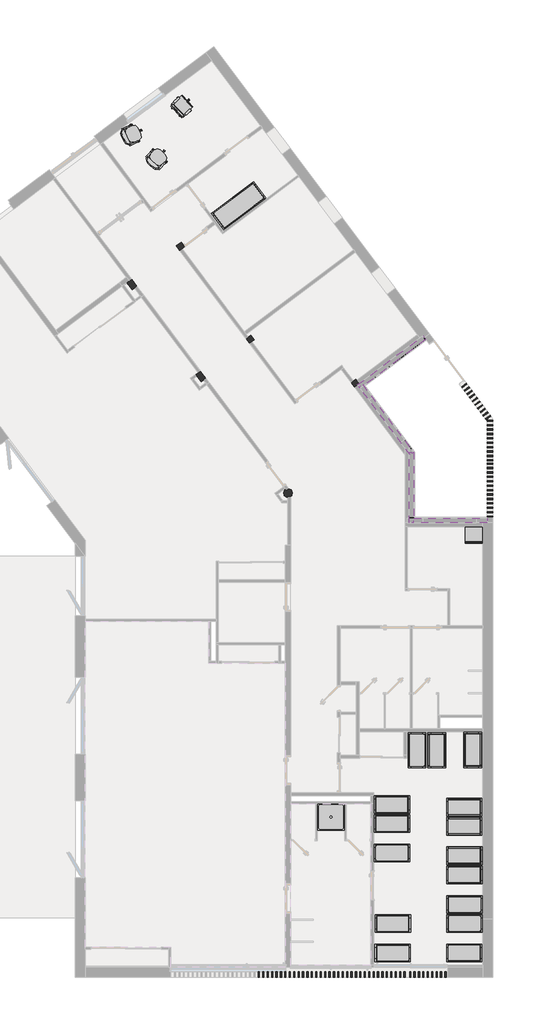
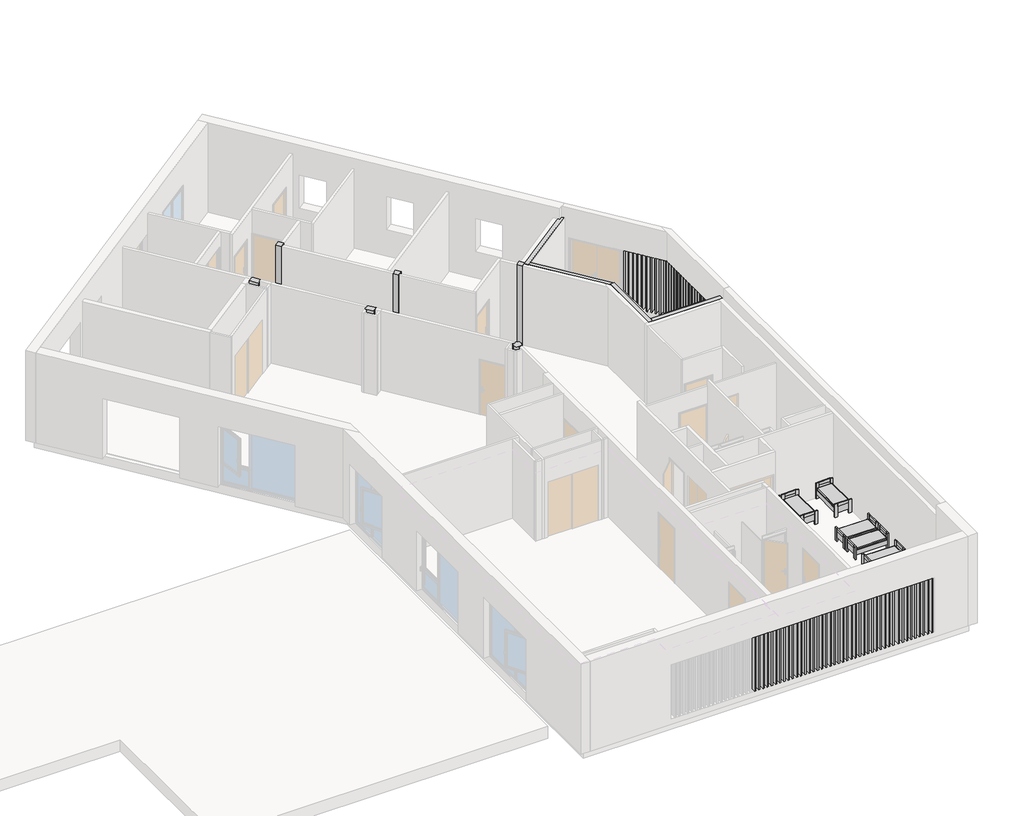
# One storey, part 4 of 4: 99 columns, 19 furniture elements, 8 beams, 1 flow terminal, 1 proxy.
"""IFC4 building model written with IfcOpenShell, lengths in millimetres."""

from ifc_helpers import new_model, si_unit, origin, place, context, project, spatial, transform, mapped, element, save
from components import chevron_145_x_40_cf7908cb, chevron_145_x_40_1126b362, chevron_145_x_40_7ee0f687, chevron_145_x_40_41390dd3, chevron_145_x_40_a3c6aac5, chevron_145_x_40_2b96ad9e, specialty_equipment_08ab1db2, column_200mm_x_200mm_b0a69769, column_200mm_x_200mm_c6912df6, column_200mm_x_300mm_67675290, column_300mm_55771762, column_40mm_x_145mm_5b8a7ea4, column_40mm_x_200mm_501ef31c, column_40mm_x_200mm_4dcdedf7, flow_terminal_900_x_900mm_b36db4aa, furniture_d3363bb0, furniture_a395565c, lit_120_x_60_0b7843ef, lit_70_x_1_80_ef4a9673

model = new_model("IFC4")

# Units and contexts
model_context = context("Model", 3, world=origin())
ifc_project = project(units=[si_unit("LENGTHUNIT", "METRE", prefix="MILLI")], contexts=[model_context])

# Site, building, storey
site = spatial("IfcSite", under=ifc_project)
building = spatial("IfcBuilding", under=site)
storey = spatial("IfcBuildingStorey", under=building, Name="1 Cdl 1er 3.95", Elevation=3950.0)

# Beams
placement = place(None, origin())
chevron_145_x_40_shape = chevron_145_x_40_cf7908cb(model_context)
element("IfcBeam", 1, ObjectType="Chevron : 145 x 40", at=placement, inside=storey, context=model_context, shape_type="MappedRepresentation", body=[
    mapped(chevron_145_x_40_shape, transform((-1308.2332325, 4767.5457341, 3970.0), x_axis=(-0.8005749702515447, -0.5992326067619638, 0.0), y_axis=(0.5992326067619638, -0.8005749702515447, 0.0), z_axis=(0.0, 0.0, 1.0))),
])
element("IfcBeam", 2, ObjectType="Chevron : 145 x 40", at=placement, inside=storey, context=model_context, shape_type="MappedRepresentation", body=[
    mapped(chevron_145_x_40_shape, transform((-1309.1038729, 4766.8929792, 6930.3579658), x_axis=(-0.8005749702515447, -0.5992326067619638, 0.0), y_axis=(0.5992326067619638, -0.8005749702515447, 0.0), z_axis=(0.0, 0.0, 1.0))),
])
chevron_145_x_40_2_shape = chevron_145_x_40_1126b362(model_context)
element("IfcBeam", 3, ObjectType="Chevron : 145 x 40", at=placement, inside=storey, context=model_context, shape_type="MappedRepresentation", body=[
    mapped(chevron_145_x_40_2_shape, transform((-630.4450497, 488.407764, 3970.0), x_axis=(0.0, -1.0, 0.0), y_axis=(1.0, 0.0, 0.0), z_axis=(0.0, 0.0, 1.0))),
])
chevron_145_x_40_3_shape = chevron_145_x_40_7ee0f687(model_context)
element("IfcBeam", 4, ObjectType="Chevron : 145 x 40", at=placement, inside=storey, context=model_context, shape_type="MappedRepresentation", body=[
    mapped(chevron_145_x_40_3_shape, transform((687.9678799, -619.7315788, 3970.0), x_axis=(1.0, 0.0, 0.0), y_axis=(0.0, 1.0, 0.0), z_axis=(0.0, 0.0, 1.0))),
])
element("IfcBeam", 5, ObjectType="Chevron : 145 x 40", at=placement, inside=storey, context=model_context, shape_type="MappedRepresentation", body=[
    mapped(chevron_145_x_40_3_shape, transform((691.4234173, -619.7315788, 6930.0), x_axis=(1.0, 0.0, 0.0), y_axis=(0.0, 1.0, 0.0), z_axis=(0.0, 0.0, 1.0))),
])
chevron_145_x_40_4_shape = chevron_145_x_40_41390dd3(model_context)
element("IfcBeam", 6, ObjectType="Chevron : 145 x 40", at=placement, inside=storey, context=model_context, shape_type="MappedRepresentation", body=[
    mapped(chevron_145_x_40_4_shape, transform((-1495.7815164, 2823.6831572, 3970.0), x_axis=(0.5993370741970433, -0.800496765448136, 0.0), y_axis=(0.800496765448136, 0.5993370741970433, 0.0), z_axis=(0.0, 0.0, 1.0))),
])
chevron_145_x_40_5_shape = chevron_145_x_40_a3c6aac5(model_context)
element("IfcBeam", 7, ObjectType="Chevron : 145 x 40", at=placement, inside=storey, context=model_context, shape_type="MappedRepresentation", body=[
    mapped(chevron_145_x_40_5_shape, transform((-1486.3578041, 2811.1138689, 6930.0), x_axis=(0.5993370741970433, -0.800496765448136, 0.0), y_axis=(0.800496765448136, 0.5993370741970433, 0.0), z_axis=(0.0, 0.0, 1.0))),
])
chevron_145_x_40_6_shape = chevron_145_x_40_2b96ad9e(model_context)
element("IfcBeam", 8, ObjectType="Chevron : 145 x 40", at=placement, inside=storey, context=model_context, shape_type="MappedRepresentation", body=[
    mapped(chevron_145_x_40_6_shape, transform((-630.4450497, 487.2684212, 6930.0), x_axis=(0.0, -1.0, 0.0), y_axis=(1.0, 0.0, 0.0), z_axis=(0.0, 0.0, 1.0))),
])

# Proxy
specialty_equipment_shape = specialty_equipment_08ab1db2(model_context)
element("IfcBuildingElementProxy", 9, Name="Kitchen_Appliances_Zanussi_Zanussi-FI-60-Dishwasher-Sliding-Door : Name - (ZDLN1511 911539251 Denmark)", ObjectType="Kitchen_Appliances_Zanussi_Zanussi-FI-60-Dishwasher-Sliding-Door : Name - (ZDLN1511 911539251 Denmark)", at=placement, inside=storey, context=model_context, shape_type="MappedRepresentation", body=[
    mapped(specialty_equipment_shape, transform((1499.4160615, -1107.2306525, 3950.0), x_axis=(1.0, 0.0, 0.0), y_axis=(0.0, 1.0, 0.0), z_axis=(0.0, 0.0, 1.0))),
])

# Columns
column_200mm_x_200mm_shape = column_200mm_x_200mm_b0a69769(model_context)
element("IfcColumn", 10, ObjectType="Poteau béton - Carré : 200mm x 200mm", at=placement, inside=storey, context=model_context, shape_type="MappedRepresentation", body=[
    mapped(column_200mm_x_200mm_shape, transform((-6114.8805693, 5539.4962637, 0.0), x_axis=(0.800099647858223, 0.5998671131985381, 0.0), y_axis=(-0.5998671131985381, 0.800099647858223, 0.0), z_axis=(0.0, 0.0, 1.0))),
])
element("IfcColumn", 11, ObjectType="Poteau béton - Carré : 200mm x 200mm", at=placement, inside=storey, context=model_context, shape_type="MappedRepresentation", body=[
    mapped(column_200mm_x_200mm_shape, transform((-8483.9767077, 8699.3844196, 0.0), x_axis=(0.800099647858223, 0.5998671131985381, 0.0), y_axis=(-0.5998671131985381, 0.800099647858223, 0.0), z_axis=(0.0, 0.0, 1.0))),
])
column_200mm_x_200mm_2_shape = column_200mm_x_200mm_c6912df6(model_context)
element("IfcColumn", 12, ObjectType="Poteau béton - Carré : 200mm x 200mm", at=placement, inside=storey, context=model_context, shape_type="MappedRepresentation", body=[
    mapped(column_200mm_x_200mm_2_shape, transform((-2547.1985735, 4050.2097719, 0.0), x_axis=(0.800099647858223, 0.5998671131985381, 0.0), y_axis=(-0.5998671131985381, 0.800099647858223, 0.0), z_axis=(0.0, 0.0, 1.0))),
])
column_200mm_x_300mm_shape = column_200mm_x_300mm_67675290(model_context)
element("IfcColumn", 13, ObjectType="Poteau béton - Rectangulaire : 200mm x 300mm", at=placement, inside=storey, context=model_context, shape_type="MappedRepresentation", body=[
    mapped(column_200mm_x_300mm_shape, transform((-7794.8681837, 4279.8637718, 0.0), x_axis=(0.8003937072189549, 0.5994746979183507, 0.0), y_axis=(-0.5994746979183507, 0.8003937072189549, 0.0), z_axis=(0.0, 0.0, 1.0))),
])
element("IfcColumn", 14, ObjectType="Poteau béton - Rectangulaire : 200mm x 300mm", at=placement, inside=storey, context=model_context, shape_type="MappedRepresentation", body=[
    mapped(column_200mm_x_300mm_shape, transform((-10134.3194046, 7400.3587309, 0.0), x_axis=(0.800099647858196, 0.599867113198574, 0.0), y_axis=(-0.599867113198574, 0.800099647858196, 0.0), z_axis=(0.0, 0.0, 1.0))),
])
column_300mm_shape = column_300mm_55771762(model_context)
element("IfcColumn", 15, ObjectType="Poteau béton - Arrondi : 300mm", at=placement, inside=storey, context=model_context, shape_type="MappedRepresentation", body=[
    mapped(column_300mm_shape, transform((-4827.9622089, 318.9369131, 0.0), x_axis=(1.0, 0.0, 0.0), y_axis=(0.0, 1.0, 0.0), z_axis=(0.0, 0.0, 1.0))),
])
column_40mm_x_145mm_shape = column_40mm_x_145mm_5b8a7ea4(model_context)
element("IfcColumn", 16, ObjectType="Poteau - Lamellé-collé - Pin du sud : 40mm x 145mm", at=placement, inside=storey, context=model_context, shape_type="MappedRepresentation", body=[
    mapped(column_40mm_x_145mm_shape, transform((1540.2133907, -619.8564388, 0.0), x_axis=(-1.0, 0.0, 0.0), y_axis=(0.0, -1.0, 0.0), z_axis=(0.0, 0.0, 1.0))),
])
element("IfcColumn", 17, ObjectType="Poteau - Lamellé-collé - Pin du sud : 40mm x 145mm", at=placement, inside=storey, context=model_context, shape_type="MappedRepresentation", body=[
    mapped(column_40mm_x_145mm_shape, transform((-267.0765827, -619.7304389, 0.0), x_axis=(-1.0, 0.0, 0.0), y_axis=(0.0, -1.0, 0.0), z_axis=(0.0, 0.0, 1.0))),
])
element("IfcColumn", 18, ObjectType="Poteau - Lamellé-collé - Pin du sud : 40mm x 145mm", at=placement, inside=storey, context=model_context, shape_type="MappedRepresentation", body=[
    mapped(column_40mm_x_145mm_shape, transform((937.6776281, -619.7256248, 0.0), x_axis=(-1.0, 0.0, 0.0), y_axis=(0.0, -1.0, 0.0), z_axis=(0.0, 0.0, 1.0))),
])
element("IfcColumn", 19, ObjectType="Poteau - Lamellé-collé - Pin du sud : 40mm x 145mm", at=placement, inside=storey, context=model_context, shape_type="MappedRepresentation", body=[
    mapped(column_40mm_x_145mm_shape, transform((335.278145, -619.7315788, 0.0), x_axis=(-1.0, 0.0, 0.0), y_axis=(0.0, -1.0, 0.0), z_axis=(0.0, 0.0, 1.0))),
])
element("IfcColumn", 20, ObjectType="Poteau - Lamellé-collé - Pin du sud : 40mm x 145mm", at=placement, inside=storey, context=model_context, shape_type="MappedRepresentation", body=[
    mapped(column_40mm_x_145mm_shape, transform((-630.4450497, 1280.0595346, 0.0), x_axis=(0.0, -1.0, 0.0), y_axis=(1.0, 0.0, 0.0), z_axis=(0.0, 0.0, 1.0))),
])
element("IfcColumn", 21, ObjectType="Poteau - Lamellé-collé - Pin du sud : 40mm x 145mm", at=placement, inside=storey, context=model_context, shape_type="MappedRepresentation", body=[
    mapped(column_40mm_x_145mm_shape, transform((-630.5710496, -527.2304389, 0.0), x_axis=(0.0, -1.0, 0.0), y_axis=(1.0, 0.0, 0.0), z_axis=(0.0, 0.0, 1.0))),
])
element("IfcColumn", 22, ObjectType="Poteau - Lamellé-collé - Pin du sud : 40mm x 145mm", at=placement, inside=storey, context=model_context, shape_type="MappedRepresentation", body=[
    mapped(column_40mm_x_145mm_shape, transform((-630.5758637, 677.523772, 0.0), x_axis=(0.0, -1.0, 0.0), y_axis=(1.0, 0.0, 0.0), z_axis=(0.0, 0.0, 1.0))),
])
element("IfcColumn", 23, ObjectType="Poteau - Lamellé-collé - Pin du sud : 40mm x 145mm", at=placement, inside=storey, context=model_context, shape_type="MappedRepresentation", body=[
    mapped(column_40mm_x_145mm_shape, transform((-630.5699097, 75.1242889, 0.0), x_axis=(0.0, -1.0, 0.0), y_axis=(1.0, 0.0, 0.0), z_axis=(0.0, 0.0, 1.0))),
])
element("IfcColumn", 24, ObjectType="Poteau - Lamellé-collé - Pin du sud : 40mm x 145mm", at=placement, inside=storey, context=model_context, shape_type="MappedRepresentation", body=[
    mapped(column_40mm_x_145mm_shape, transform((-2027.5943824, 3539.111296, 0.0), x_axis=(0.5992331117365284, -0.8005745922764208, 0.0), y_axis=(0.8005745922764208, 0.5992331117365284, 0.0), z_axis=(0.0, 0.0, 1.0))),
])
element("IfcColumn", 25, ObjectType="Poteau - Lamellé-collé - Pin du sud : 40mm x 145mm", at=placement, inside=storey, context=model_context, shape_type="MappedRepresentation", body=[
    mapped(column_40mm_x_145mm_shape, transform((-944.7072601, 2092.1653591, 0.0), x_axis=(0.5992331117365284, -0.8005745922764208, 0.0), y_axis=(0.8005745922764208, 0.5992331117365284, 0.0), z_axis=(0.0, 0.0, 1.0))),
])
element("IfcColumn", 26, ObjectType="Poteau - Lamellé-collé - Pin du sud : 40mm x 145mm", at=placement, inside=storey, context=model_context, shape_type="MappedRepresentation", body=[
    mapped(column_40mm_x_145mm_shape, transform((-1666.6397288, 3056.6580855, 0.0), x_axis=(0.5992331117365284, -0.8005745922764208, 0.0), y_axis=(0.8005745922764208, 0.5992331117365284, 0.0), z_axis=(0.0, 0.0, 1.0))),
])
element("IfcColumn", 27, ObjectType="Poteau - Lamellé-collé - Pin du sud : 40mm x 145mm", at=placement, inside=storey, context=model_context, shape_type="MappedRepresentation", body=[
    mapped(column_40mm_x_145mm_shape, transform((-1305.6572454, 2574.3959328, 0.0), x_axis=(0.5992331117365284, -0.8005745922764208, 0.0), y_axis=(0.8005745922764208, 0.5992331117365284, 0.0), z_axis=(0.0, 0.0, 1.0))),
])
element("IfcColumn", 28, ObjectType="Poteau - Lamellé-collé - Pin du sud : 40mm x 145mm", at=placement, inside=storey, context=model_context, shape_type="MappedRepresentation", body=[
    mapped(column_40mm_x_145mm_shape, transform((-483.1819505, 5384.9413129, 0.0), x_axis=(-0.8005745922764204, -0.5992331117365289, 0.0), y_axis=(0.5992331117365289, -0.8005745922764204, 0.0), z_axis=(0.0, 0.0, 1.0))),
])
element("IfcColumn", 29, ObjectType="Poteau - Lamellé-collé - Pin du sud : 40mm x 145mm", at=placement, inside=storey, context=model_context, shape_type="MappedRepresentation", body=[
    mapped(column_40mm_x_145mm_shape, transform((-1930.1278874, 4302.0541907, 0.0), x_axis=(-0.8005745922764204, -0.5992331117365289, 0.0), y_axis=(0.5992331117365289, -0.8005745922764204, 0.0), z_axis=(0.0, 0.0, 1.0))),
])
element("IfcColumn", 30, ObjectType="Poteau - Lamellé-collé - Pin du sud : 40mm x 145mm", at=placement, inside=storey, context=model_context, shape_type="MappedRepresentation", body=[
    mapped(column_40mm_x_145mm_shape, transform((-965.635161, 5023.9866593, 0.0), x_axis=(-0.8005745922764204, -0.5992331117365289, 0.0), y_axis=(0.5992331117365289, -0.8005745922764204, 0.0), z_axis=(0.0, 0.0, 1.0))),
])
element("IfcColumn", 31, ObjectType="Poteau - Lamellé-collé - Pin du sud : 40mm x 145mm", at=placement, inside=storey, context=model_context, shape_type="MappedRepresentation", body=[
    mapped(column_40mm_x_145mm_shape, transform((-1447.8973137, 4663.004176, 0.0), x_axis=(-0.8005745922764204, -0.5992331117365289, 0.0), y_axis=(0.5992331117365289, -0.8005745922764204, 0.0), z_axis=(0.0, 0.0, 1.0))),
])
element("IfcColumn", 32, ObjectType="Poteau - Lamellé-collé - Pin du sud : 40mm x 145mm", at=placement, inside=storey, context=model_context, shape_type="MappedRepresentation", body=[
    mapped(column_40mm_x_145mm_shape, transform((-207.0246369, 5591.7735756, 0.0), x_axis=(-0.8005745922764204, -0.5992331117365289, 0.0), y_axis=(0.5992331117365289, -0.8005745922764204, 0.0), z_axis=(0.0, 0.0, 1.0))),
])
column_40mm_x_200mm_shape = column_40mm_x_200mm_501ef31c(model_context)
element("IfcColumn", 33, ObjectType="Poteau - Lamellé-collé - Pin du sud : 40mm x 200mm", at=placement, inside=storey, context=model_context, shape_type="MappedRepresentation", body=[
    mapped(column_40mm_x_200mm_shape, transform((2036.9234173, -484.8485082, 0.0), x_axis=(0.0, 1.0, 0.0), y_axis=(-1.0, 0.0, 0.0), z_axis=(0.0, 0.0, 1.0))),
])
element("IfcColumn", 34, ObjectType="Poteau - Lamellé-collé - Pin du sud : 40mm x 200mm", at=placement, inside=storey, context=model_context, shape_type="MappedRepresentation", body=[
    mapped(column_40mm_x_200mm_shape, transform((2036.9234173, -334.8485082, 0.0), x_axis=(0.0, 1.0, 0.0), y_axis=(-1.0, 0.0, 0.0), z_axis=(0.0, 0.0, 1.0))),
])
element("IfcColumn", 35, ObjectType="Poteau - Lamellé-collé - Pin du sud : 40mm x 200mm", at=placement, inside=storey, context=model_context, shape_type="MappedRepresentation", body=[
    mapped(column_40mm_x_200mm_shape, transform((2036.9234173, -184.8485082, 0.0), x_axis=(0.0, 1.0, 0.0), y_axis=(-1.0, 0.0, 0.0), z_axis=(0.0, 0.0, 1.0))),
])
element("IfcColumn", 36, ObjectType="Poteau - Lamellé-collé - Pin du sud : 40mm x 200mm", at=placement, inside=storey, context=model_context, shape_type="MappedRepresentation", body=[
    mapped(column_40mm_x_200mm_shape, transform((2036.9234173, -34.8485082, 0.0), x_axis=(0.0, 1.0, 0.0), y_axis=(-1.0, 0.0, 0.0), z_axis=(0.0, 0.0, 1.0))),
])
element("IfcColumn", 37, ObjectType="Poteau - Lamellé-collé - Pin du sud : 40mm x 200mm", at=placement, inside=storey, context=model_context, shape_type="MappedRepresentation", body=[
    mapped(column_40mm_x_200mm_shape, transform((2036.9234173, 115.1514918, 0.0), x_axis=(0.0, 1.0, 0.0), y_axis=(-1.0, 0.0, 0.0), z_axis=(0.0, 0.0, 1.0))),
])
element("IfcColumn", 38, ObjectType="Poteau - Lamellé-collé - Pin du sud : 40mm x 200mm", at=placement, inside=storey, context=model_context, shape_type="MappedRepresentation", body=[
    mapped(column_40mm_x_200mm_shape, transform((2036.9234173, 265.1514918, 0.0), x_axis=(0.0, 1.0, 0.0), y_axis=(-1.0, 0.0, 0.0), z_axis=(0.0, 0.0, 1.0))),
])
element("IfcColumn", 39, ObjectType="Poteau - Lamellé-collé - Pin du sud : 40mm x 200mm", at=placement, inside=storey, context=model_context, shape_type="MappedRepresentation", body=[
    mapped(column_40mm_x_200mm_shape, transform((2036.9234173, 415.1514918, 0.0), x_axis=(0.0, 1.0, 0.0), y_axis=(-1.0, 0.0, 0.0), z_axis=(0.0, 0.0, 1.0))),
])
element("IfcColumn", 40, ObjectType="Poteau - Lamellé-collé - Pin du sud : 40mm x 200mm", at=placement, inside=storey, context=model_context, shape_type="MappedRepresentation", body=[
    mapped(column_40mm_x_200mm_shape, transform((2036.9234173, 565.1514918, 0.0), x_axis=(0.0, 1.0, 0.0), y_axis=(-1.0, 0.0, 0.0), z_axis=(0.0, 0.0, 1.0))),
])
element("IfcColumn", 41, ObjectType="Poteau - Lamellé-collé - Pin du sud : 40mm x 200mm", at=placement, inside=storey, context=model_context, shape_type="MappedRepresentation", body=[
    mapped(column_40mm_x_200mm_shape, transform((2036.9234173, 715.1514918, 0.0), x_axis=(0.0, 1.0, 0.0), y_axis=(-1.0, 0.0, 0.0), z_axis=(0.0, 0.0, 1.0))),
])
element("IfcColumn", 42, ObjectType="Poteau - Lamellé-collé - Pin du sud : 40mm x 200mm", at=placement, inside=storey, context=model_context, shape_type="MappedRepresentation", body=[
    mapped(column_40mm_x_200mm_shape, transform((2036.9234173, 865.1514918, 0.0), x_axis=(0.0, 1.0, 0.0), y_axis=(-1.0, 0.0, 0.0), z_axis=(0.0, 0.0, 1.0))),
])
element("IfcColumn", 43, ObjectType="Poteau - Lamellé-collé - Pin du sud : 40mm x 200mm", at=placement, inside=storey, context=model_context, shape_type="MappedRepresentation", body=[
    mapped(column_40mm_x_200mm_shape, transform((2036.9234173, 1015.1514918, 0.0), x_axis=(0.0, 1.0, 0.0), y_axis=(-1.0, 0.0, 0.0), z_axis=(0.0, 0.0, 1.0))),
])
element("IfcColumn", 44, ObjectType="Poteau - Lamellé-collé - Pin du sud : 40mm x 200mm", at=placement, inside=storey, context=model_context, shape_type="MappedRepresentation", body=[
    mapped(column_40mm_x_200mm_shape, transform((2036.9234173, 1165.1514918, 0.0), x_axis=(0.0, 1.0, 0.0), y_axis=(-1.0, 0.0, 0.0), z_axis=(0.0, 0.0, 1.0))),
])
element("IfcColumn", 45, ObjectType="Poteau - Lamellé-collé - Pin du sud : 40mm x 200mm", at=placement, inside=storey, context=model_context, shape_type="MappedRepresentation", body=[
    mapped(column_40mm_x_200mm_shape, transform((2036.9234173, 1315.1514918, 0.0), x_axis=(0.0, 1.0, 0.0), y_axis=(-1.0, 0.0, 0.0), z_axis=(0.0, 0.0, 1.0))),
])
element("IfcColumn", 46, ObjectType="Poteau - Lamellé-collé - Pin du sud : 40mm x 200mm", at=placement, inside=storey, context=model_context, shape_type="MappedRepresentation", body=[
    mapped(column_40mm_x_200mm_shape, transform((1790.1113018, 3128.2658886, 0.0), x_axis=(0.5999025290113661, -0.8000730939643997, 0.0), y_axis=(0.8000730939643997, 0.5999025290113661, 0.0), z_axis=(0.0, 0.0, 1.0))),
])
element("IfcColumn", 47, ObjectType="Poteau - Lamellé-collé - Pin du sud : 40mm x 200mm", at=placement, inside=storey, context=model_context, shape_type="MappedRepresentation", body=[
    mapped(column_40mm_x_200mm_shape, transform((1880.0966812, 3008.2549245, 0.0), x_axis=(0.5999025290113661, -0.8000730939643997, 0.0), y_axis=(0.8000730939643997, 0.5999025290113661, 0.0), z_axis=(0.0, 0.0, 1.0))),
])
element("IfcColumn", 48, ObjectType="Poteau - Lamellé-collé - Pin du sud : 40mm x 200mm", at=placement, inside=storey, context=model_context, shape_type="MappedRepresentation", body=[
    mapped(column_40mm_x_200mm_shape, transform((1970.0820605, 2888.2439604, 0.0), x_axis=(0.5999025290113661, -0.8000730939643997, 0.0), y_axis=(0.8000730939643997, 0.5999025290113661, 0.0), z_axis=(0.0, 0.0, 1.0))),
])
element("IfcColumn", 49, ObjectType="Poteau - Lamellé-collé - Pin du sud : 40mm x 200mm", at=placement, inside=storey, context=model_context, shape_type="MappedRepresentation", body=[
    mapped(column_40mm_x_200mm_shape, transform((2036.9234173, 2775.1514918, 0.0), x_axis=(0.0, -1.0, 0.0), y_axis=(1.0, 0.0, 0.0), z_axis=(0.0, 0.0, 1.0))),
])
element("IfcColumn", 50, ObjectType="Poteau - Lamellé-collé - Pin du sud : 40mm x 200mm", at=placement, inside=storey, context=model_context, shape_type="MappedRepresentation", body=[
    mapped(column_40mm_x_200mm_shape, transform((2036.9234173, 2625.1514918, 0.0), x_axis=(0.0, -1.0, 0.0), y_axis=(1.0, 0.0, 0.0), z_axis=(0.0, 0.0, 1.0))),
])
element("IfcColumn", 51, ObjectType="Poteau - Lamellé-collé - Pin du sud : 40mm x 200mm", at=placement, inside=storey, context=model_context, shape_type="MappedRepresentation", body=[
    mapped(column_40mm_x_200mm_shape, transform((2036.9234173, 2475.1514918, 0.0), x_axis=(0.0, -1.0, 0.0), y_axis=(1.0, 0.0, 0.0), z_axis=(0.0, 0.0, 1.0))),
])
element("IfcColumn", 52, ObjectType="Poteau - Lamellé-collé - Pin du sud : 40mm x 200mm", at=placement, inside=storey, context=model_context, shape_type="MappedRepresentation", body=[
    mapped(column_40mm_x_200mm_shape, transform((2036.9234173, 2325.1514918, 0.0), x_axis=(0.0, -1.0, 0.0), y_axis=(1.0, 0.0, 0.0), z_axis=(0.0, 0.0, 1.0))),
])
element("IfcColumn", 53, ObjectType="Poteau - Lamellé-collé - Pin du sud : 40mm x 200mm", at=placement, inside=storey, context=model_context, shape_type="MappedRepresentation", body=[
    mapped(column_40mm_x_200mm_shape, transform((2036.9234173, 2175.1514918, 0.0), x_axis=(0.0, -1.0, 0.0), y_axis=(1.0, 0.0, 0.0), z_axis=(0.0, 0.0, 1.0))),
])
element("IfcColumn", 54, ObjectType="Poteau - Lamellé-collé - Pin du sud : 40mm x 200mm", at=placement, inside=storey, context=model_context, shape_type="MappedRepresentation", body=[
    mapped(column_40mm_x_200mm_shape, transform((2036.9234173, 2025.1514918, 0.0), x_axis=(0.0, -1.0, 0.0), y_axis=(1.0, 0.0, 0.0), z_axis=(0.0, 0.0, 1.0))),
])
element("IfcColumn", 55, ObjectType="Poteau - Lamellé-collé - Pin du sud : 40mm x 200mm", at=placement, inside=storey, context=model_context, shape_type="MappedRepresentation", body=[
    mapped(column_40mm_x_200mm_shape, transform((2036.9234173, 1875.1514918, 0.0), x_axis=(0.0, -1.0, 0.0), y_axis=(1.0, 0.0, 0.0), z_axis=(0.0, 0.0, 1.0))),
])
element("IfcColumn", 56, ObjectType="Poteau - Lamellé-collé - Pin du sud : 40mm x 200mm", at=placement, inside=storey, context=model_context, shape_type="MappedRepresentation", body=[
    mapped(column_40mm_x_200mm_shape, transform((2036.9234173, 1725.1514918, 0.0), x_axis=(0.0, -1.0, 0.0), y_axis=(1.0, 0.0, 0.0), z_axis=(0.0, 0.0, 1.0))),
])
element("IfcColumn", 57, ObjectType="Poteau - Lamellé-collé - Pin du sud : 40mm x 200mm", at=placement, inside=storey, context=model_context, shape_type="MappedRepresentation", body=[
    mapped(column_40mm_x_200mm_shape, transform((2036.9234173, 1575.1514918, 0.0), x_axis=(0.0, -1.0, 0.0), y_axis=(1.0, 0.0, 0.0), z_axis=(0.0, 0.0, 1.0))),
])
element("IfcColumn", 58, ObjectType="Poteau - Lamellé-collé - Pin du sud : 40mm x 200mm", at=placement, inside=storey, context=model_context, shape_type="MappedRepresentation", body=[
    mapped(column_40mm_x_200mm_shape, transform((2036.9234173, 1425.1514918, 0.0), x_axis=(0.0, -1.0, 0.0), y_axis=(1.0, 0.0, 0.0), z_axis=(0.0, 0.0, 1.0))),
])
element("IfcColumn", 59, ObjectType="Poteau - Lamellé-collé - Pin du sud : 40mm x 200mm", at=placement, inside=storey, context=model_context, shape_type="MappedRepresentation", body=[
    mapped(column_40mm_x_200mm_shape, transform((1520.1590027, 3488.3025688, 0.0), x_axis=(0.5999025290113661, -0.8000730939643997, 0.0), y_axis=(0.8000730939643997, 0.5999025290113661, 0.0), z_axis=(0.0, 0.0, 1.0))),
])
element("IfcColumn", 60, ObjectType="Poteau - Lamellé-collé - Pin du sud : 40mm x 200mm", at=placement, inside=storey, context=model_context, shape_type="MappedRepresentation", body=[
    mapped(column_40mm_x_200mm_shape, transform((1610.144382, 3368.2916047, 0.0), x_axis=(0.5999025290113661, -0.8000730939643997, 0.0), y_axis=(0.8000730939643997, 0.5999025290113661, 0.0), z_axis=(0.0, 0.0, 1.0))),
])
element("IfcColumn", 61, ObjectType="Poteau - Lamellé-collé - Pin du sud : 40mm x 200mm", at=placement, inside=storey, context=model_context, shape_type="MappedRepresentation", body=[
    mapped(column_40mm_x_200mm_shape, transform((1700.1297614, 3248.2806406, 0.0), x_axis=(0.5999025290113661, -0.8000730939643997, 0.0), y_axis=(0.8000730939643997, 0.5999025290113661, 0.0), z_axis=(0.0, 0.0, 1.0))),
])
element("IfcColumn", 62, ObjectType="Poteau - Lamellé-collé - Pin du sud : 40mm x 200mm", at=placement, inside=storey, context=model_context, shape_type="MappedRepresentation", body=[
    mapped(column_40mm_x_200mm_shape, transform((1250.2194107, 3848.3478235, 0.0), x_axis=(0.5999025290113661, -0.8000730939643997, 0.0), y_axis=(0.8000730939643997, 0.5999025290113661, 0.0), z_axis=(0.0, 0.0, 1.0))),
])
element("IfcColumn", 63, ObjectType="Poteau - Lamellé-collé - Pin du sud : 40mm x 200mm", at=placement, inside=storey, context=model_context, shape_type="MappedRepresentation", body=[
    mapped(column_40mm_x_200mm_shape, transform((1340.2047901, 3728.3368594, 0.0), x_axis=(0.5999025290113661, -0.8000730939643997, 0.0), y_axis=(0.8000730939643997, 0.5999025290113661, 0.0), z_axis=(0.0, 0.0, 1.0))),
])
element("IfcColumn", 64, ObjectType="Poteau - Lamellé-collé - Pin du sud : 40mm x 200mm", at=placement, inside=storey, context=model_context, shape_type="MappedRepresentation", body=[
    mapped(column_40mm_x_200mm_shape, transform((1430.1901694, 3608.3258953, 0.0), x_axis=(0.5999025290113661, -0.8000730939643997, 0.0), y_axis=(0.8000730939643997, 0.5999025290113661, 0.0), z_axis=(0.0, 0.0, 1.0))),
])
element("IfcColumn", 65, ObjectType="Poteau - Lamellé-collé - Pin du sud : 40mm x 200mm", at=placement, inside=storey, context=model_context, shape_type="MappedRepresentation", body=[
    mapped(column_40mm_x_200mm_shape, transform((1160.2495737, 3968.369674, 0.0), x_axis=(0.5999025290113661, -0.8000730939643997, 0.0), y_axis=(0.8000730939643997, 0.5999025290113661, 0.0), z_axis=(0.0, 0.0, 1.0))),
])
column_40mm_x_200mm_2_shape = column_40mm_x_200mm_4dcdedf7(model_context)
element("IfcColumn", 66, ObjectType="Poteau - Lamellé-collé - Pin du sud : 40mm x 200mm", at=placement, inside=storey, context=model_context, shape_type="MappedRepresentation", body=[
    mapped(column_40mm_x_200mm_2_shape, transform((-5819.5111839, -16048.5662223, 0.0), x_axis=(1.0, 0.0, 0.0), y_axis=(0.0, 1.0, 0.0), z_axis=(0.0, 0.0, 1.0))),
])
element("IfcColumn", 67, ObjectType="Poteau - Lamellé-collé - Pin du sud : 40mm x 200mm", at=placement, inside=storey, context=model_context, shape_type="MappedRepresentation", body=[
    mapped(column_40mm_x_200mm_2_shape, transform((-5669.5111839, -16048.5662223, 0.0), x_axis=(1.0, 0.0, 0.0), y_axis=(0.0, 1.0, 0.0), z_axis=(0.0, 0.0, 1.0))),
])
element("IfcColumn", 68, ObjectType="Poteau - Lamellé-collé - Pin du sud : 40mm x 200mm", at=placement, inside=storey, context=model_context, shape_type="MappedRepresentation", body=[
    mapped(column_40mm_x_200mm_2_shape, transform((-5519.5111839, -16048.5662223, 0.0), x_axis=(1.0, 0.0, 0.0), y_axis=(0.0, 1.0, 0.0), z_axis=(0.0, 0.0, 1.0))),
])
element("IfcColumn", 69, ObjectType="Poteau - Lamellé-collé - Pin du sud : 40mm x 200mm", at=placement, inside=storey, context=model_context, shape_type="MappedRepresentation", body=[
    mapped(column_40mm_x_200mm_2_shape, transform((-5369.5111839, -16048.5662223, 0.0), x_axis=(1.0, 0.0, 0.0), y_axis=(0.0, 1.0, 0.0), z_axis=(0.0, 0.0, 1.0))),
])
element("IfcColumn", 70, ObjectType="Poteau - Lamellé-collé - Pin du sud : 40mm x 200mm", at=placement, inside=storey, context=model_context, shape_type="MappedRepresentation", body=[
    mapped(column_40mm_x_200mm_2_shape, transform((-5219.5111839, -16048.5662223, 0.0), x_axis=(1.0, 0.0, 0.0), y_axis=(0.0, 1.0, 0.0), z_axis=(0.0, 0.0, 1.0))),
])
element("IfcColumn", 71, ObjectType="Poteau - Lamellé-collé - Pin du sud : 40mm x 200mm", at=placement, inside=storey, context=model_context, shape_type="MappedRepresentation", body=[
    mapped(column_40mm_x_200mm_2_shape, transform((-5069.5111839, -16048.5662223, 0.0), x_axis=(1.0, 0.0, 0.0), y_axis=(0.0, 1.0, 0.0), z_axis=(0.0, 0.0, 1.0))),
])
element("IfcColumn", 72, ObjectType="Poteau - Lamellé-collé - Pin du sud : 40mm x 200mm", at=placement, inside=storey, context=model_context, shape_type="MappedRepresentation", body=[
    mapped(column_40mm_x_200mm_2_shape, transform((-4919.5111839, -16048.5662223, 0.0), x_axis=(1.0, 0.0, 0.0), y_axis=(0.0, 1.0, 0.0), z_axis=(0.0, 0.0, 1.0))),
])
element("IfcColumn", 73, ObjectType="Poteau - Lamellé-collé - Pin du sud : 40mm x 200mm", at=placement, inside=storey, context=model_context, shape_type="MappedRepresentation", body=[
    mapped(column_40mm_x_200mm_2_shape, transform((-4769.5111839, -16048.5662223, 0.0), x_axis=(1.0, 0.0, 0.0), y_axis=(0.0, 1.0, 0.0), z_axis=(0.0, 0.0, 1.0))),
])
element("IfcColumn", 74, ObjectType="Poteau - Lamellé-collé - Pin du sud : 40mm x 200mm", at=placement, inside=storey, context=model_context, shape_type="MappedRepresentation", body=[
    mapped(column_40mm_x_200mm_2_shape, transform((-4619.5111839, -16048.5662223, 0.0), x_axis=(1.0, 0.0, 0.0), y_axis=(0.0, 1.0, 0.0), z_axis=(0.0, 0.0, 1.0))),
])
element("IfcColumn", 75, ObjectType="Poteau - Lamellé-collé - Pin du sud : 40mm x 200mm", at=placement, inside=storey, context=model_context, shape_type="MappedRepresentation", body=[
    mapped(column_40mm_x_200mm_2_shape, transform((-4469.5111839, -16048.5662223, 0.0), x_axis=(1.0, 0.0, 0.0), y_axis=(0.0, 1.0, 0.0), z_axis=(0.0, 0.0, 1.0))),
])
element("IfcColumn", 76, ObjectType="Poteau - Lamellé-collé - Pin du sud : 40mm x 200mm", at=placement, inside=storey, context=model_context, shape_type="MappedRepresentation", body=[
    mapped(column_40mm_x_200mm_2_shape, transform((-4319.5111839, -16048.5662223, 0.0), x_axis=(1.0, 0.0, 0.0), y_axis=(0.0, 1.0, 0.0), z_axis=(0.0, 0.0, 1.0))),
])
element("IfcColumn", 77, ObjectType="Poteau - Lamellé-collé - Pin du sud : 40mm x 200mm", at=placement, inside=storey, context=model_context, shape_type="MappedRepresentation", body=[
    mapped(column_40mm_x_200mm_2_shape, transform((-4169.5111839, -16048.5662223, 0.0), x_axis=(1.0, 0.0, 0.0), y_axis=(0.0, 1.0, 0.0), z_axis=(0.0, 0.0, 1.0))),
])
element("IfcColumn", 78, ObjectType="Poteau - Lamellé-collé - Pin du sud : 40mm x 200mm", at=placement, inside=storey, context=model_context, shape_type="MappedRepresentation", body=[
    mapped(column_40mm_x_200mm_2_shape, transform((-4019.5111839, -16048.5662223, 0.0), x_axis=(1.0, 0.0, 0.0), y_axis=(0.0, 1.0, 0.0), z_axis=(0.0, 0.0, 1.0))),
])
element("IfcColumn", 79, ObjectType="Poteau - Lamellé-collé - Pin du sud : 40mm x 200mm", at=placement, inside=storey, context=model_context, shape_type="MappedRepresentation", body=[
    mapped(column_40mm_x_200mm_2_shape, transform((-3869.5111839, -16048.5662223, 0.0), x_axis=(1.0, 0.0, 0.0), y_axis=(0.0, 1.0, 0.0), z_axis=(0.0, 0.0, 1.0))),
])
element("IfcColumn", 80, ObjectType="Poteau - Lamellé-collé - Pin du sud : 40mm x 200mm", at=placement, inside=storey, context=model_context, shape_type="MappedRepresentation", body=[
    mapped(column_40mm_x_200mm_2_shape, transform((-3719.5111839, -16048.5662223, 0.0), x_axis=(1.0, 0.0, 0.0), y_axis=(0.0, 1.0, 0.0), z_axis=(0.0, 0.0, 1.0))),
])
element("IfcColumn", 81, ObjectType="Poteau - Lamellé-collé - Pin du sud : 40mm x 200mm", at=placement, inside=storey, context=model_context, shape_type="MappedRepresentation", body=[
    mapped(column_40mm_x_200mm_2_shape, transform((-3569.5111839, -16048.5662223, 0.0), x_axis=(1.0, 0.0, 0.0), y_axis=(0.0, 1.0, 0.0), z_axis=(0.0, 0.0, 1.0))),
])
element("IfcColumn", 82, ObjectType="Poteau - Lamellé-collé - Pin du sud : 40mm x 200mm", at=placement, inside=storey, context=model_context, shape_type="MappedRepresentation", body=[
    mapped(column_40mm_x_200mm_2_shape, transform((-3419.5111839, -16048.5662223, 0.0), x_axis=(1.0, 0.0, 0.0), y_axis=(0.0, 1.0, 0.0), z_axis=(0.0, 0.0, 1.0))),
])
element("IfcColumn", 83, ObjectType="Poteau - Lamellé-collé - Pin du sud : 40mm x 200mm", at=placement, inside=storey, context=model_context, shape_type="MappedRepresentation", body=[
    mapped(column_40mm_x_200mm_2_shape, transform((-3269.5111839, -16048.5662223, 0.0), x_axis=(1.0, 0.0, 0.0), y_axis=(0.0, 1.0, 0.0), z_axis=(0.0, 0.0, 1.0))),
])
element("IfcColumn", 84, ObjectType="Poteau - Lamellé-collé - Pin du sud : 40mm x 200mm", at=placement, inside=storey, context=model_context, shape_type="MappedRepresentation", body=[
    mapped(column_40mm_x_200mm_2_shape, transform((-3119.5111839, -16048.5662223, 0.0), x_axis=(1.0, 0.0, 0.0), y_axis=(0.0, 1.0, 0.0), z_axis=(0.0, 0.0, 1.0))),
])
element("IfcColumn", 85, ObjectType="Poteau - Lamellé-collé - Pin du sud : 40mm x 200mm", at=placement, inside=storey, context=model_context, shape_type="MappedRepresentation", body=[
    mapped(column_40mm_x_200mm_2_shape, transform((-2969.5111839, -16048.5662223, 0.0), x_axis=(1.0, 0.0, 0.0), y_axis=(0.0, 1.0, 0.0), z_axis=(0.0, 0.0, 1.0))),
])
element("IfcColumn", 86, ObjectType="Poteau - Lamellé-collé - Pin du sud : 40mm x 200mm", at=placement, inside=storey, context=model_context, shape_type="MappedRepresentation", body=[
    mapped(column_40mm_x_200mm_2_shape, transform((-2819.5111839, -16048.5662223, 0.0), x_axis=(1.0, 0.0, 0.0), y_axis=(0.0, 1.0, 0.0), z_axis=(0.0, 0.0, 1.0))),
])
element("IfcColumn", 87, ObjectType="Poteau - Lamellé-collé - Pin du sud : 40mm x 200mm", at=placement, inside=storey, context=model_context, shape_type="MappedRepresentation", body=[
    mapped(column_40mm_x_200mm_2_shape, transform((-2669.5111839, -16048.5662223, 0.0), x_axis=(1.0, 0.0, 0.0), y_axis=(0.0, 1.0, 0.0), z_axis=(0.0, 0.0, 1.0))),
])
element("IfcColumn", 88, ObjectType="Poteau - Lamellé-collé - Pin du sud : 40mm x 200mm", at=placement, inside=storey, context=model_context, shape_type="MappedRepresentation", body=[
    mapped(column_40mm_x_200mm_2_shape, transform((-2519.5111839, -16048.5662223, 0.0), x_axis=(1.0, 0.0, 0.0), y_axis=(0.0, 1.0, 0.0), z_axis=(0.0, 0.0, 1.0))),
])
element("IfcColumn", 89, ObjectType="Poteau - Lamellé-collé - Pin du sud : 40mm x 200mm", at=placement, inside=storey, context=model_context, shape_type="MappedRepresentation", body=[
    mapped(column_40mm_x_200mm_2_shape, transform((-2369.5111839, -16048.5662223, 0.0), x_axis=(1.0, 0.0, 0.0), y_axis=(0.0, 1.0, 0.0), z_axis=(0.0, 0.0, 1.0))),
])
element("IfcColumn", 90, ObjectType="Poteau - Lamellé-collé - Pin du sud : 40mm x 200mm", at=placement, inside=storey, context=model_context, shape_type="MappedRepresentation", body=[
    mapped(column_40mm_x_200mm_2_shape, transform((-2219.5111839, -16048.5662223, 0.0), x_axis=(1.0, 0.0, 0.0), y_axis=(0.0, 1.0, 0.0), z_axis=(0.0, 0.0, 1.0))),
])
element("IfcColumn", 91, ObjectType="Poteau - Lamellé-collé - Pin du sud : 40mm x 200mm", at=placement, inside=storey, context=model_context, shape_type="MappedRepresentation", body=[
    mapped(column_40mm_x_200mm_2_shape, transform((-2069.5111839, -16048.5662223, 0.0), x_axis=(1.0, 0.0, 0.0), y_axis=(0.0, 1.0, 0.0), z_axis=(0.0, 0.0, 1.0))),
])
element("IfcColumn", 92, ObjectType="Poteau - Lamellé-collé - Pin du sud : 40mm x 200mm", at=placement, inside=storey, context=model_context, shape_type="MappedRepresentation", body=[
    mapped(column_40mm_x_200mm_2_shape, transform((-1919.5111839, -16048.5662223, 0.0), x_axis=(1.0, 0.0, 0.0), y_axis=(0.0, 1.0, 0.0), z_axis=(0.0, 0.0, 1.0))),
])
element("IfcColumn", 93, ObjectType="Poteau - Lamellé-collé - Pin du sud : 40mm x 200mm", at=placement, inside=storey, context=model_context, shape_type="MappedRepresentation", body=[
    mapped(column_40mm_x_200mm_2_shape, transform((-1769.5111839, -16048.5662223, 0.0), x_axis=(1.0, 0.0, 0.0), y_axis=(0.0, 1.0, 0.0), z_axis=(0.0, 0.0, 1.0))),
])
element("IfcColumn", 94, ObjectType="Poteau - Lamellé-collé - Pin du sud : 40mm x 200mm", at=placement, inside=storey, context=model_context, shape_type="MappedRepresentation", body=[
    mapped(column_40mm_x_200mm_2_shape, transform((-1619.5111839, -16048.5662223, 0.0), x_axis=(1.0, 0.0, 0.0), y_axis=(0.0, 1.0, 0.0), z_axis=(0.0, 0.0, 1.0))),
])
element("IfcColumn", 95, ObjectType="Poteau - Lamellé-collé - Pin du sud : 40mm x 200mm", at=placement, inside=storey, context=model_context, shape_type="MappedRepresentation", body=[
    mapped(column_40mm_x_200mm_2_shape, transform((-1469.5111839, -16048.5662223, 0.0), x_axis=(1.0, 0.0, 0.0), y_axis=(0.0, 1.0, 0.0), z_axis=(0.0, 0.0, 1.0))),
])
element("IfcColumn", 96, ObjectType="Poteau - Lamellé-collé - Pin du sud : 40mm x 200mm", at=placement, inside=storey, context=model_context, shape_type="MappedRepresentation", body=[
    mapped(column_40mm_x_200mm_2_shape, transform((-1319.5111839, -16048.5662223, 0.0), x_axis=(1.0, 0.0, 0.0), y_axis=(0.0, 1.0, 0.0), z_axis=(0.0, 0.0, 1.0))),
])
element("IfcColumn", 97, ObjectType="Poteau - Lamellé-collé - Pin du sud : 40mm x 200mm", at=placement, inside=storey, context=model_context, shape_type="MappedRepresentation", body=[
    mapped(column_40mm_x_200mm_2_shape, transform((-1169.5111839, -16048.5662223, 0.0), x_axis=(1.0, 0.0, 0.0), y_axis=(0.0, 1.0, 0.0), z_axis=(0.0, 0.0, 1.0))),
])
element("IfcColumn", 98, ObjectType="Poteau - Lamellé-collé - Pin du sud : 40mm x 200mm", at=placement, inside=storey, context=model_context, shape_type="MappedRepresentation", body=[
    mapped(column_40mm_x_200mm_2_shape, transform((-1019.5111839, -16048.5662223, 0.0), x_axis=(1.0, 0.0, 0.0), y_axis=(0.0, 1.0, 0.0), z_axis=(0.0, 0.0, 1.0))),
])
element("IfcColumn", 99, ObjectType="Poteau - Lamellé-collé - Pin du sud : 40mm x 200mm", at=placement, inside=storey, context=model_context, shape_type="MappedRepresentation", body=[
    mapped(column_40mm_x_200mm_2_shape, transform((-869.5111839, -16048.5662223, 0.0), x_axis=(1.0, 0.0, 0.0), y_axis=(0.0, 1.0, 0.0), z_axis=(0.0, 0.0, 1.0))),
])
element("IfcColumn", 100, ObjectType="Poteau - Lamellé-collé - Pin du sud : 40mm x 200mm", at=placement, inside=storey, context=model_context, shape_type="MappedRepresentation", body=[
    mapped(column_40mm_x_200mm_2_shape, transform((-679.5111839, -16048.5662223, 0.0), x_axis=(1.0, 0.0, 0.0), y_axis=(0.0, 1.0, 0.0), z_axis=(0.0, 0.0, 1.0))),
])
element("IfcColumn", 101, ObjectType="Poteau - Lamellé-collé - Pin du sud : 40mm x 200mm", at=placement, inside=storey, context=model_context, shape_type="MappedRepresentation", body=[
    mapped(column_40mm_x_200mm_2_shape, transform((-529.5111839, -16048.5662223, 0.0), x_axis=(1.0, 0.0, 0.0), y_axis=(0.0, 1.0, 0.0), z_axis=(0.0, 0.0, 1.0))),
])
element("IfcColumn", 102, ObjectType="Poteau - Lamellé-collé - Pin du sud : 40mm x 200mm", at=placement, inside=storey, context=model_context, shape_type="MappedRepresentation", body=[
    mapped(column_40mm_x_200mm_2_shape, transform((-379.5111839, -16048.5662223, 0.0), x_axis=(1.0, 0.0, 0.0), y_axis=(0.0, 1.0, 0.0), z_axis=(0.0, 0.0, 1.0))),
])
element("IfcColumn", 103, ObjectType="Poteau - Lamellé-collé - Pin du sud : 40mm x 200mm", at=placement, inside=storey, context=model_context, shape_type="MappedRepresentation", body=[
    mapped(column_40mm_x_200mm_2_shape, transform((-229.5111839, -16048.5662223, 0.0), x_axis=(1.0, 0.0, 0.0), y_axis=(0.0, 1.0, 0.0), z_axis=(0.0, 0.0, 1.0))),
])
element("IfcColumn", 104, ObjectType="Poteau - Lamellé-collé - Pin du sud : 40mm x 200mm", at=placement, inside=storey, context=model_context, shape_type="MappedRepresentation", body=[
    mapped(column_40mm_x_200mm_2_shape, transform((-79.5111839, -16048.5662223, 0.0), x_axis=(1.0, 0.0, 0.0), y_axis=(0.0, 1.0, 0.0), z_axis=(0.0, 0.0, 1.0))),
])
element("IfcColumn", 105, ObjectType="Poteau - Lamellé-collé - Pin du sud : 40mm x 200mm", at=placement, inside=storey, context=model_context, shape_type="MappedRepresentation", body=[
    mapped(column_40mm_x_200mm_2_shape, transform((70.4888161, -16048.5662223, 0.0), x_axis=(1.0, 0.0, 0.0), y_axis=(0.0, 1.0, 0.0), z_axis=(0.0, 0.0, 1.0))),
])
element("IfcColumn", 106, ObjectType="Poteau - Lamellé-collé - Pin du sud : 40mm x 200mm", at=placement, inside=storey, context=model_context, shape_type="MappedRepresentation", body=[
    mapped(column_40mm_x_200mm_2_shape, transform((220.4888161, -16048.5662223, 0.0), x_axis=(1.0, 0.0, 0.0), y_axis=(0.0, 1.0, 0.0), z_axis=(0.0, 0.0, 1.0))),
])
element("IfcColumn", 107, ObjectType="Poteau - Lamellé-collé - Pin du sud : 40mm x 200mm", at=placement, inside=storey, context=model_context, shape_type="MappedRepresentation", body=[
    mapped(column_40mm_x_200mm_2_shape, transform((370.4888161, -16048.5662223, 0.0), x_axis=(1.0, 0.0, 0.0), y_axis=(0.0, 1.0, 0.0), z_axis=(0.0, 0.0, 1.0))),
])
element("IfcColumn", 108, ObjectType="Poteau - Lamellé-collé - Pin du sud : 40mm x 200mm", at=placement, inside=storey, context=model_context, shape_type="MappedRepresentation", body=[
    mapped(column_40mm_x_200mm_2_shape, transform((520.4888161, -16048.5662223, 0.0), x_axis=(1.0, 0.0, 0.0), y_axis=(0.0, 1.0, 0.0), z_axis=(0.0, 0.0, 1.0))),
])

# Flow terminal
flow_terminal_900_x_900mm_shape = flow_terminal_900_x_900mm_b36db4aa(model_context)
element("IfcFlowTerminal", 109, ObjectType="Receveur d'angle - Vidange axée : 900 x 900mm", at=placement, inside=storey, context=model_context, shape_type="MappedRepresentation", body=[
    mapped(flow_terminal_900_x_900mm_shape, transform((-3370.4007899, -10696.4366169, 3950.0), x_axis=(1.0, 0.0, 0.0), y_axis=(0.0, 1.0, 0.0), z_axis=(0.0, 0.0, 1.0))),
])

# Furniture
furniture_shape = furniture_d3363bb0(model_context)
element("IfcFurniture", 110, ObjectType="Siège - 03 : Siège - 03", at=placement, inside=storey, context=model_context, shape_type="MappedRepresentation", body=[
    mapped(furniture_shape, transform((-8549.2900471, 13544.7133294, 3950.0), x_axis=(0.688033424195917, -0.7256789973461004, 0.0), y_axis=(0.7256789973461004, 0.688033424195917, 0.0), z_axis=(0.0, 0.0, 1.0))),
])
furniture_2_shape = furniture_a395565c(model_context)
element("IfcFurniture", 111, ObjectType="Siège - 01 : Siège - 01", at=placement, inside=storey, context=model_context, shape_type="MappedRepresentation", body=[
    mapped(furniture_2_shape, transform((-10193.2265797, 12630.8901098, 3950.0), x_axis=(0.4226182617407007, -0.9063077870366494, 0.0), y_axis=(0.9063077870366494, 0.4226182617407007, 0.0), z_axis=(0.0, 0.0, 1.0))),
])
element("IfcFurniture", 112, ObjectType="Siège - 01 : Siège - 01", at=placement, inside=storey, context=model_context, shape_type="MappedRepresentation", body=[
    mapped(furniture_2_shape, transform((-9378.6364295, 11790.09669, 3950.0), x_axis=(0.7321449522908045, -0.6811488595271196, 0.0), y_axis=(0.6811488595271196, 0.7321449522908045, 0.0), z_axis=(0.0, 0.0, 1.0))),
])
lit_120_x_60_shape = lit_120_x_60_0b7843ef(model_context)
element("IfcFurniture", 113, ObjectType="Lit : 120 x 60", at=placement, inside=storey, context=model_context, shape_type="MappedRepresentation", body=[
    mapped(lit_120_x_60_shape, transform((1761.1474955, -11009.8744093, 3950.0), x_axis=(0.0, -1.0, 0.0), y_axis=(1.0, 0.0, 0.0), z_axis=(0.0, 0.0, 1.0))),
])
element("IfcFurniture", 114, ObjectType="Lit : 120 x 60", at=placement, inside=storey, context=model_context, shape_type="MappedRepresentation", body=[
    mapped(lit_120_x_60_shape, transform((1761.1474955, -10364.8479792, 3950.0), x_axis=(0.0, -1.0, 0.0), y_axis=(1.0, 0.0, 0.0), z_axis=(0.0, 0.0, 1.0))),
])
element("IfcFurniture", 115, ObjectType="Lit : 120 x 60", at=placement, inside=storey, context=model_context, shape_type="MappedRepresentation", body=[
    mapped(lit_120_x_60_shape, transform((1765.6920539, -12663.4486497, 3950.0), x_axis=(0.0, -1.0, 0.0), y_axis=(1.0, 0.0, 0.0), z_axis=(0.0, 0.0, 1.0))),
])
element("IfcFurniture", 116, ObjectType="Lit : 120 x 60", at=placement, inside=storey, context=model_context, shape_type="MappedRepresentation", body=[
    mapped(lit_120_x_60_shape, transform((1765.6920539, -12009.870627, 3950.0), x_axis=(0.0, -1.0, 0.0), y_axis=(1.0, 0.0, 0.0), z_axis=(0.0, 0.0, 1.0))),
])
element("IfcFurniture", 117, ObjectType="Lit : 120 x 60", at=placement, inside=storey, context=model_context, shape_type="MappedRepresentation", body=[
    mapped(lit_120_x_60_shape, transform((-1866.3494181, -14316.6876859, 3950.0), x_axis=(0.0, 1.0, 0.0), y_axis=(-1.0, 0.0, 0.0), z_axis=(0.0, 0.0, 1.0))),
])
element("IfcFurniture", 118, ObjectType="Lit : 120 x 60", at=placement, inside=storey, context=model_context, shape_type="MappedRepresentation", body=[
    mapped(lit_120_x_60_shape, transform((1769.2071347, -14316.6876859, 3950.0), x_axis=(0.0, -1.0, 0.0), y_axis=(1.0, 0.0, 0.0), z_axis=(0.0, 0.0, 1.0))),
])
element("IfcFurniture", 119, ObjectType="Lit : 120 x 60", at=placement, inside=storey, context=model_context, shape_type="MappedRepresentation", body=[
    mapped(lit_120_x_60_shape, transform((-1873.975248, -15316.6876859, 3950.0), x_axis=(0.0, 1.0, 0.0), y_axis=(-1.0, 0.0, 0.0), z_axis=(0.0, 0.0, 1.0))),
])
element("IfcFurniture", 120, ObjectType="Lit : 120 x 60", at=placement, inside=storey, context=model_context, shape_type="MappedRepresentation", body=[
    mapped(lit_120_x_60_shape, transform((1761.3156572, -15316.6876859, 3950.0), x_axis=(0.0, -1.0, 0.0), y_axis=(1.0, 0.0, 0.0), z_axis=(0.0, 0.0, 1.0))),
])
element("IfcFurniture", 121, ObjectType="Lit : 120 x 60", at=placement, inside=storey, context=model_context, shape_type="MappedRepresentation", body=[
    mapped(lit_120_x_60_shape, transform((1769.2071347, -13663.4461785, 3950.0), x_axis=(0.0, -1.0, 0.0), y_axis=(1.0, 0.0, 0.0), z_axis=(0.0, 0.0, 1.0))),
])
element("IfcFurniture", 122, ObjectType="Lit : 120 x 60", at=placement, inside=storey, context=model_context, shape_type="MappedRepresentation", body=[
    mapped(lit_120_x_60_shape, transform((-1894.4002306, -11916.9446352, 3950.0), x_axis=(0.0, 1.0, 0.0), y_axis=(-1.0, 0.0, 0.0), z_axis=(0.0, 0.0, 1.0))),
])
element("IfcFurniture", 123, ObjectType="Lit : 120 x 60", at=placement, inside=storey, context=model_context, shape_type="MappedRepresentation", body=[
    mapped(lit_120_x_60_shape, transform((-1898.9341047, -10916.9484175, 3950.0), x_axis=(0.0, 1.0, 0.0), y_axis=(-1.0, 0.0, 0.0), z_axis=(0.0, 0.0, 1.0))),
])
element("IfcFurniture", 124, ObjectType="Lit : 120 x 60", at=placement, inside=storey, context=model_context, shape_type="MappedRepresentation", body=[
    mapped(lit_120_x_60_shape, transform((-1898.983761, -10271.9219874, 3950.0), x_axis=(0.0, 1.0, 0.0), y_axis=(-1.0, 0.0, 0.0), z_axis=(0.0, 0.0, 1.0))),
])
element("IfcFurniture", 125, ObjectType="Lit : 120 x 60", at=placement, inside=storey, context=model_context, shape_type="MappedRepresentation", body=[
    mapped(lit_120_x_60_shape, transform((-451.451104, -7825.5539694, 3950.0), x_axis=(1.0, 0.0, 0.0), y_axis=(0.0, 1.0, 0.0), z_axis=(0.0, 0.0, 1.0))),
])
element("IfcFurniture", 126, ObjectType="Lit : 120 x 60", at=placement, inside=storey, context=model_context, shape_type="MappedRepresentation", body=[
    mapped(lit_120_x_60_shape, transform((224.6740135, -7825.1884381, 3950.0), x_axis=(1.0, 0.0, 0.0), y_axis=(0.0, 1.0, 0.0), z_axis=(0.0, 0.0, 1.0))),
])
element("IfcFurniture", 127, ObjectType="Lit : 120 x 60", at=placement, inside=storey, context=model_context, shape_type="MappedRepresentation", body=[
    mapped(lit_120_x_60_shape, transform((1450.7980017, -7815.3809778, 3950.0), x_axis=(1.0, 0.0, 0.0), y_axis=(0.0, 1.0, 0.0), z_axis=(0.0, 0.0, 1.0))),
])
lit_70_x_1_80_shape = lit_70_x_1_80_ef4a9673(model_context)
element("IfcFurniture", 128, ObjectType="Lit : 70 x 1.80", at=placement, inside=storey, context=model_context, shape_type="MappedRepresentation", body=[
    mapped(lit_70_x_1_80_shape, transform((-7229.1580303, 9545.4714916, 3950.0), x_axis=(-0.5996109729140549, 0.8002916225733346, 0.0), y_axis=(-0.8002916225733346, -0.5996109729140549, 0.0), z_axis=(0.0, 0.0, 1.0))),
])

save(model, "model.ifc")
